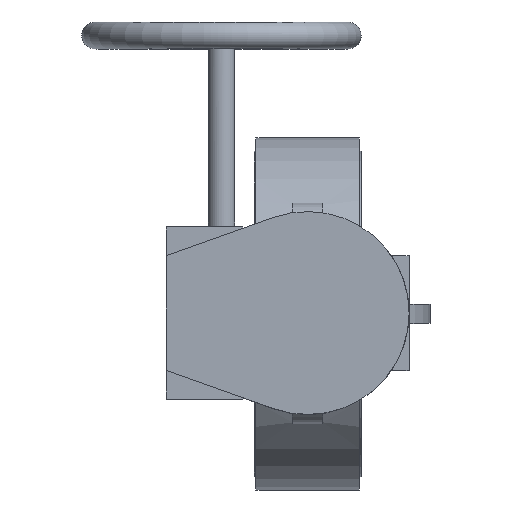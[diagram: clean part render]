
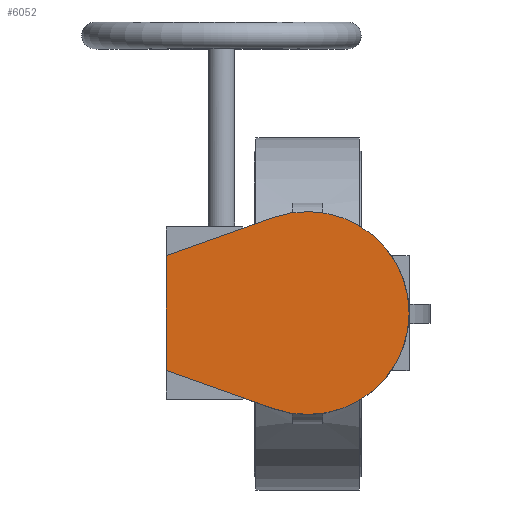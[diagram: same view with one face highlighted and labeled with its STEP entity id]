
A CAD part, top view. The second image highlights one B-rep face of the part: STEP entity #6052.
In plain terms, the highlighted planar face has unit normal (0, 0, 1).
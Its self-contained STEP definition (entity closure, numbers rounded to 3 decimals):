
#6052=ADVANCED_FACE('',(#11441),#11443,.T.);
#11441=FACE_BOUND('',#11442,.T.);
#11442=EDGE_LOOP('',(#15407,#15408,#15409,#15410));
#11443=PLANE('',#11444);
#11444=AXIS2_PLACEMENT_3D('',#11445,#11446,#11447);
#11445=CARTESIAN_POINT('',(0.,0.,260.));
#11446=DIRECTION('',(0.,0.,1.));
#11447=DIRECTION('',(0.,1.,0.));
#15407=ORIENTED_EDGE('',*,*,#17413,.T.);
#15408=ORIENTED_EDGE('',*,*,#17409,.T.);
#15409=ORIENTED_EDGE('',*,*,#17402,.T.);
#15410=ORIENTED_EDGE('',*,*,#17397,.T.);
#17397=EDGE_CURVE('',#20622,#20620,#20623,.T.);
#17402=EDGE_CURVE('',#20630,#20622,#20631,.T.);
#17409=EDGE_CURVE('',#20643,#20630,#20644,.T.);
#17413=EDGE_CURVE('',#20620,#20643,#20649,.T.);
#20620=VERTEX_POINT('',#30007);
#20622=VERTEX_POINT('',#30011);
#20623=LINE('',#30012,#30013);
#20630=VERTEX_POINT('',#30029);
#20631=LINE('',#30030,#30031);
#20643=VERTEX_POINT('',#30056);
#20644=LINE('',#30057,#30058);
#20649=CIRCLE('',#30070,53.);
#30007=CARTESIAN_POINT('',(-17.708,-49.954,260.));
#30011=CARTESIAN_POINT('',(-74.,-30.,260.));
#30012=CARTESIAN_POINT('',(-74.,-30.,260.));
#30013=VECTOR('',#30014,1.);
#30014=DIRECTION('',(0.943,-0.334,0.));
#30029=CARTESIAN_POINT('',(-74.,30.,260.));
#30030=CARTESIAN_POINT('',(-74.,30.,260.));
#30031=VECTOR('',#30032,1.);
#30032=DIRECTION('',(0.,-1.,0.));
#30056=CARTESIAN_POINT('',(-17.708,49.954,260.));
#30057=CARTESIAN_POINT('',(-17.708,49.954,260.));
#30058=VECTOR('',#30059,1.);
#30059=DIRECTION('',(-0.943,-0.334,0.));
#30070=AXIS2_PLACEMENT_3D('',#30071,#30072,#30073);
#30071=CARTESIAN_POINT('',(0.,0.,260.));
#30072=DIRECTION('',(0.,0.,1.));
#30073=DIRECTION('',(-0.334,-0.943,0.));
